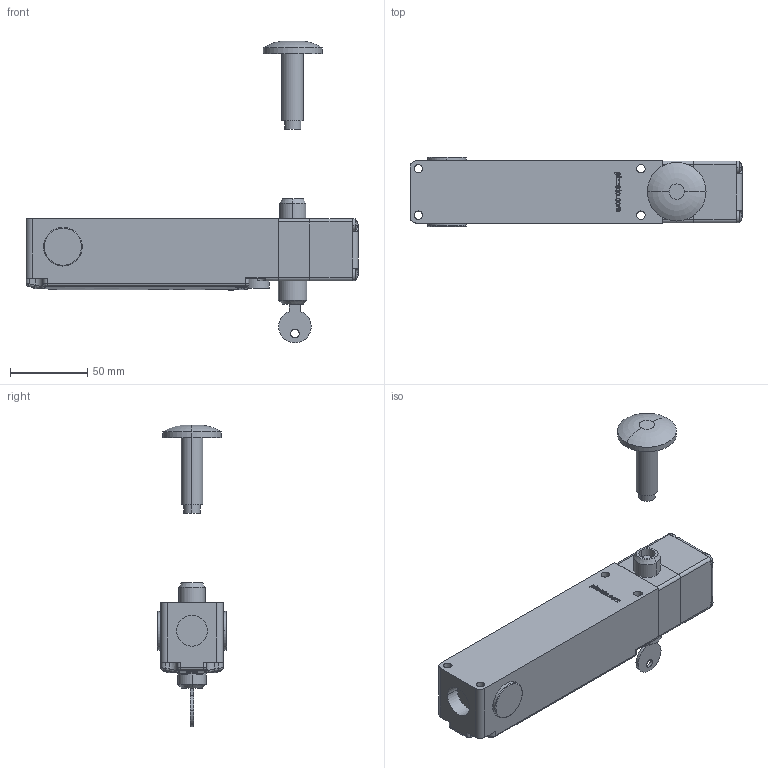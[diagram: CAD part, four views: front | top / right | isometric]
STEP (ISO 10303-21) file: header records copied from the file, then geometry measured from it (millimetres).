
FILE_DESCRIPTION (( 'STEP AP203' ), '1' );
FILE_NAME ('Pizzato_FG_xxxD6DxA.step', '2009-01-29T19:29:12', ( 'Pizzato Elettrica Srl' ), ( '' ), 'SwSTEP 2.0', 'SolidWorks 2008', '' );
FILE_SCHEMA (( 'CONFIG_CONTROL_DESIGN' ));
Length unit declared in the file: millimetre
Products named in the file (7): Pizzato_Fungo_LP40; Pizzato_Chiave_Serratura_Chiave; Pizzato_FG_xxxD6DxA; Pizzato_Custodia_FG_ND Con LED; Pizzato_Modulo_TGD6; Pizzato_Supporto_TGD1_TGD1; Pizzato_Tappo_Protezione_PG13_M20_PG13
Assembly tree (7 placements, depth 2):
  Pizzato_FG_xxxD6DxA
    Pizzato_Tappo_Protezione_PG13_M20_PG13  x2
    Pizzato_Fungo_LP40
    Pizzato_Chiave_Serratura_Chiave
    Pizzato_Supporto_TGD1_TGD1
    Pizzato_Modulo_TGD6
    Pizzato_Custodia_FG_ND Con LED
Bounding box: 214.8 x 45 x 195.2 mm (x, y, z)
Volume: 383087.2 mm3; surface area: 65243.9 mm2
Topology: 7 solids, 7 shells, 567 faces, 1442 edges, 940 vertices
Faces by surface type: plane 312, cylinder 142, bspline 79, sphere 18, torus 12, cone 4
Entity records: 22197 total; most frequent: CARTESIAN_POINT 8320, ORIENTED_EDGE 2852, DIRECTION 2482, EDGE_CURVE 1426, VERTEX_POINT 930, VECTOR 870, LINE 870, AXIS2_PLACEMENT_3D 806
